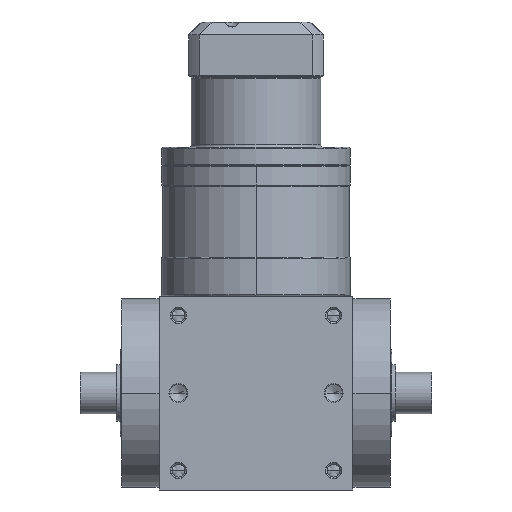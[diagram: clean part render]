
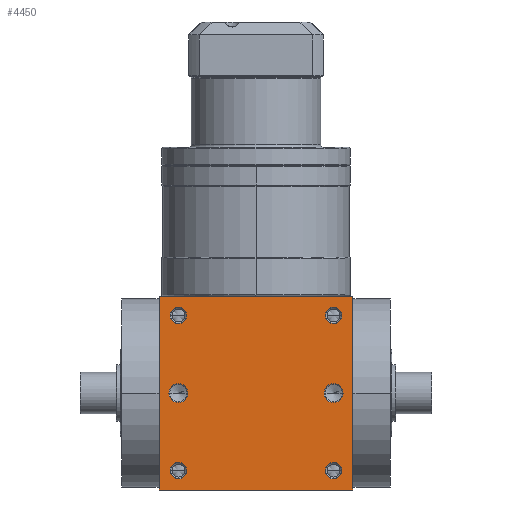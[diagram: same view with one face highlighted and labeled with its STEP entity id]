
A CAD part, front view. The second image highlights one B-rep face of the part: STEP entity #4450.
In plain terms, the highlighted planar face has unit normal (0, -1, 0).
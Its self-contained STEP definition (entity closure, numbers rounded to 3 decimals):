
#5=DIRECTION('',(1.,0.,0.));
#6=VECTOR('',#5,75.);
#7=CARTESIAN_POINT('',(-37.5,-37.5,-37.5));
#8=LINE('',#7,#6);
#155=DIRECTION('',(0.,0.,1.));
#156=VECTOR('',#155,75.);
#157=CARTESIAN_POINT('',(37.5,-37.5,-37.5));
#158=LINE('',#157,#156);
#209=DIRECTION('',(0.,0.,1.));
#210=VECTOR('',#209,75.);
#211=CARTESIAN_POINT('',(-37.5,-37.5,-37.5));
#212=LINE('',#211,#210);
#213=CARTESIAN_POINT('',(30.,-37.5,30.));
#214=DIRECTION('',(0.,1.,0.));
#215=DIRECTION('',(-1.,0.,0.));
#216=AXIS2_PLACEMENT_3D('',#213,#214,#215);
#218=CARTESIAN_POINT('',(30.,-37.5,30.));
#219=DIRECTION('',(0.,1.,0.));
#220=DIRECTION('',(1.,0.,0.));
#221=AXIS2_PLACEMENT_3D('',#218,#219,#220);
#223=CARTESIAN_POINT('',(-30.,-37.5,30.));
#224=DIRECTION('',(0.,1.,0.));
#225=DIRECTION('',(-1.,0.,0.));
#226=AXIS2_PLACEMENT_3D('',#223,#224,#225);
#228=CARTESIAN_POINT('',(-30.,-37.5,30.));
#229=DIRECTION('',(0.,1.,0.));
#230=DIRECTION('',(1.,0.,0.));
#231=AXIS2_PLACEMENT_3D('',#228,#229,#230);
#233=CARTESIAN_POINT('',(30.,-37.5,-30.));
#234=DIRECTION('',(0.,1.,0.));
#235=DIRECTION('',(-1.,0.,0.));
#236=AXIS2_PLACEMENT_3D('',#233,#234,#235);
#238=CARTESIAN_POINT('',(30.,-37.5,-30.));
#239=DIRECTION('',(0.,1.,0.));
#240=DIRECTION('',(1.,0.,0.));
#241=AXIS2_PLACEMENT_3D('',#238,#239,#240);
#243=CARTESIAN_POINT('',(-30.,-37.5,-30.));
#244=DIRECTION('',(0.,1.,0.));
#245=DIRECTION('',(-1.,0.,0.));
#246=AXIS2_PLACEMENT_3D('',#243,#244,#245);
#248=CARTESIAN_POINT('',(-30.,-37.5,-30.));
#249=DIRECTION('',(0.,1.,0.));
#250=DIRECTION('',(1.,0.,0.));
#251=AXIS2_PLACEMENT_3D('',#248,#249,#250);
#253=CARTESIAN_POINT('',(-30.,-37.5,0.));
#254=DIRECTION('',(0.,1.,0.));
#255=DIRECTION('',(1.,0.,0.));
#256=AXIS2_PLACEMENT_3D('',#253,#254,#255);
#258=CARTESIAN_POINT('',(-30.,-37.5,0.));
#259=DIRECTION('',(0.,1.,0.));
#260=DIRECTION('',(-1.,0.,0.));
#261=AXIS2_PLACEMENT_3D('',#258,#259,#260);
#263=CARTESIAN_POINT('',(30.,-37.5,0.));
#264=DIRECTION('',(0.,1.,0.));
#265=DIRECTION('',(1.,0.,0.));
#266=AXIS2_PLACEMENT_3D('',#263,#264,#265);
#268=CARTESIAN_POINT('',(30.,-37.5,0.));
#269=DIRECTION('',(0.,1.,0.));
#270=DIRECTION('',(-1.,0.,0.));
#271=AXIS2_PLACEMENT_3D('',#268,#269,#270);
#285=DIRECTION('',(1.,0.,0.));
#286=VECTOR('',#285,75.);
#287=CARTESIAN_POINT('',(-37.5,-37.5,37.5));
#288=LINE('',#287,#286);
#3588=CARTESIAN_POINT('',(-37.5,-37.5,-37.5));
#3590=VERTEX_POINT('',#3588);
#3591=CARTESIAN_POINT('',(37.5,-37.5,-37.5));
#3592=VERTEX_POINT('',#3591);
#3596=CARTESIAN_POINT('',(-37.5,-37.5,37.5));
#3598=VERTEX_POINT('',#3596);
#3599=CARTESIAN_POINT('',(37.5,-37.5,37.5));
#3600=VERTEX_POINT('',#3599);
#3755=CARTESIAN_POINT('',(26.8,-37.5,30.));
#3756=CARTESIAN_POINT('',(33.2,-37.5,30.));
#3757=VERTEX_POINT('',#3755);
#3758=VERTEX_POINT('',#3756);
#3763=CARTESIAN_POINT('',(-33.2,-37.5,30.));
#3764=CARTESIAN_POINT('',(-26.8,-37.5,30.));
#3765=VERTEX_POINT('',#3763);
#3766=VERTEX_POINT('',#3764);
#3771=CARTESIAN_POINT('',(26.8,-37.5,-30.));
#3772=CARTESIAN_POINT('',(33.2,-37.5,-30.));
#3773=VERTEX_POINT('',#3771);
#3774=VERTEX_POINT('',#3772);
#3779=CARTESIAN_POINT('',(-33.2,-37.5,-30.));
#3780=CARTESIAN_POINT('',(-26.8,-37.5,-30.));
#3781=VERTEX_POINT('',#3779);
#3782=VERTEX_POINT('',#3780);
#4103=CARTESIAN_POINT('',(-26.35,-37.5,0.));
#4104=CARTESIAN_POINT('',(-33.65,-37.5,
0.));
#4105=VERTEX_POINT('',#4103);
#4106=VERTEX_POINT('',#4104);
#4111=CARTESIAN_POINT('',(33.65,-37.5,0.));
#4112=CARTESIAN_POINT('',(26.35,-37.5,0.));
#4113=VERTEX_POINT('',#4111);
#4114=VERTEX_POINT('',#4112);
#4402=CARTESIAN_POINT('',(-37.5,-37.5,-37.5));
#4403=DIRECTION('',(0.,-1.,0.));
#4404=DIRECTION('',(1.,0.,0.));
#4405=AXIS2_PLACEMENT_3D('',#4402,#4403,#4404);
#4406=PLANE('',#4405);
#4407=ORIENTED_EDGE('',*,*,#4242,.F.);
#4408=ORIENTED_EDGE('',*,*,#4285,.T.);
#4410=ORIENTED_EDGE('',*,*,#4409,.T.);
#4411=ORIENTED_EDGE('',*,*,#4364,.F.);
#4412=EDGE_LOOP('',(#4407,#4408,#4410,#4411));
#4413=FACE_OUTER_BOUND('',#4412,.F.);
#4415=ORIENTED_EDGE('',*,*,#4414,.F.);
#4417=ORIENTED_EDGE('',*,*,#4416,.F.);
#4418=EDGE_LOOP('',(#4415,#4417));
#4419=FACE_BOUND('',#4418,.F.);
#4421=ORIENTED_EDGE('',*,*,#4420,.F.);
#4423=ORIENTED_EDGE('',*,*,#4422,.F.);
#4424=EDGE_LOOP('',(#4421,#4423));
#4425=FACE_BOUND('',#4424,.F.);
#4427=ORIENTED_EDGE('',*,*,#4426,.F.);
#4429=ORIENTED_EDGE('',*,*,#4428,.F.);
#4430=EDGE_LOOP('',(#4427,#4429));
#4431=FACE_BOUND('',#4430,.F.);
#4433=ORIENTED_EDGE('',*,*,#4432,.F.);
#4435=ORIENTED_EDGE('',*,*,#4434,.F.);
#4436=EDGE_LOOP('',(#4433,#4435));
#4437=FACE_BOUND('',#4436,.F.);
#4439=ORIENTED_EDGE('',*,*,#4438,.F.);
#4441=ORIENTED_EDGE('',*,*,#4440,.F.);
#4442=EDGE_LOOP('',(#4439,#4441));
#4443=FACE_BOUND('',#4442,.F.);
#4445=ORIENTED_EDGE('',*,*,#4444,.F.);
#4447=ORIENTED_EDGE('',*,*,#4446,.F.);
#4448=EDGE_LOOP('',(#4445,#4447));
#4449=FACE_BOUND('',#4448,.F.);
#4450=ADVANCED_FACE('',(#4413,#4419,#4425,#4431,#4437,#4443,#4449),#4406,.T.);
#217=CIRCLE('',#216,3.2);
#222=CIRCLE('',#221,3.2);
#227=CIRCLE('',#226,3.2);
#232=CIRCLE('',#231,3.2);
#237=CIRCLE('',#236,3.2);
#242=CIRCLE('',#241,3.2);
#247=CIRCLE('',#246,3.2);
#252=CIRCLE('',#251,3.2);
#257=CIRCLE('',#256,3.65);
#262=CIRCLE('',#261,3.65);
#267=CIRCLE('',#266,3.65);
#272=CIRCLE('',#271,3.65);
#4242=EDGE_CURVE('',#3590,#3592,#8,.T.);
#4285=EDGE_CURVE('',#3590,#3598,#212,.T.);
#4364=EDGE_CURVE('',#3592,#3600,#158,.T.);
#4409=EDGE_CURVE('',#3598,#3600,#288,.T.);
#4414=EDGE_CURVE('',#3757,#3758,#217,.T.);
#4416=EDGE_CURVE('',#3758,#3757,#222,.T.);
#4420=EDGE_CURVE('',#3765,#3766,#227,.T.);
#4422=EDGE_CURVE('',#3766,#3765,#232,.T.);
#4426=EDGE_CURVE('',#3773,#3774,#237,.T.);
#4428=EDGE_CURVE('',#3774,#3773,#242,.T.);
#4432=EDGE_CURVE('',#3781,#3782,#247,.T.);
#4434=EDGE_CURVE('',#3782,#3781,#252,.T.);
#4438=EDGE_CURVE('',#4105,#4106,#257,.T.);
#4440=EDGE_CURVE('',#4106,#4105,#262,.T.);
#4444=EDGE_CURVE('',#4113,#4114,#267,.T.);
#4446=EDGE_CURVE('',#4114,#4113,#272,.T.);
